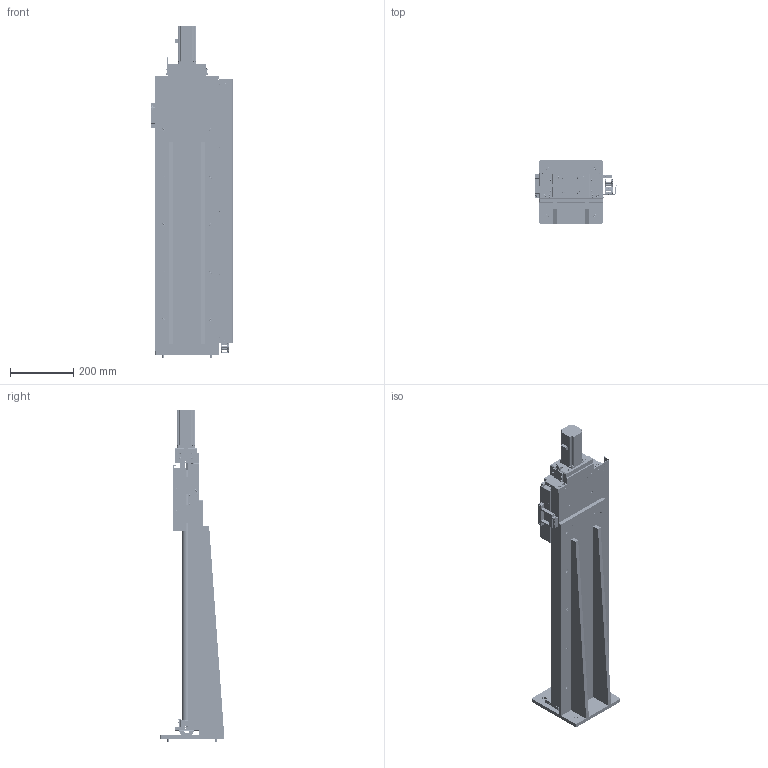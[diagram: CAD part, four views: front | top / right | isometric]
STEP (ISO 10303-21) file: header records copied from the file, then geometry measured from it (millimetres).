
FILE_DESCRIPTION (( 'STEP AP203' ), '1' );
FILE_NAME ('KA600-Z(AP203).STEP', '2022-11-30T03:16:28', ( '' ), ( '' ), 'SwSTEP 2.0', 'SolidWorks 2017', '' );
FILE_SCHEMA (( 'CONFIG_CONTROL_DESIGN' ));
Length unit declared in the file: millimetre
Products named in the file (1): KA600-Z(AP203)
Bounding box: 257.87 x 200 x 1048.3 mm (x, y, z)
Surface area: 1595210.2 mm2 (no closed solid volume)
Topology: 0 solids, 446 shells, 2950 faces, 13023 edges, 10336 vertices
Faces by surface type: plane 1589, cylinder 1132, torus 138, cone 62, sphere 26, bspline 3
Entity records: 137521 total; most frequent: CARTESIAN_POINT 30532, DIRECTION 23014, ORIENTED_EDGE 17912, EDGE_CURVE 12977, VERTEX_POINT 10336, LINE 8216, VECTOR 8216, AXIS2_PLACEMENT_3D 7399
